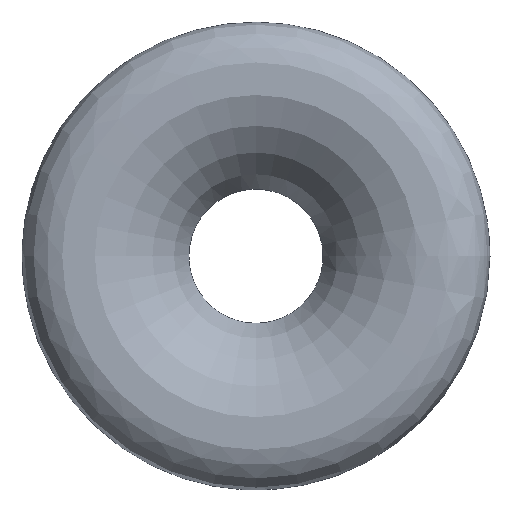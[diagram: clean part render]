
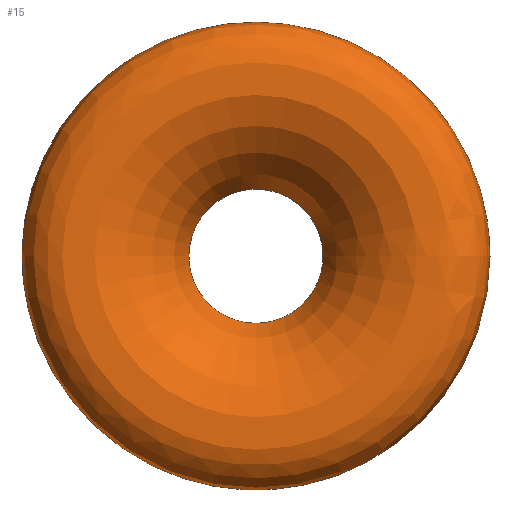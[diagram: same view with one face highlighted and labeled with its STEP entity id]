
A CAD part, top view. The second image highlights one B-rep face of the part: STEP entity #15.
In plain terms, the highlighted free-form (B-spline) face has degree [2, 3] with [9, 10] control points.
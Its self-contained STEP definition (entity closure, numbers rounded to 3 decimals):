
#15=ADVANCED_FACE('',(#16),#30,.T.);
#16=FACE_OUTER_BOUND('',#17,.T.);
#17=EDGE_LOOP('',(#18,#19,#20,#21));
#18=ORIENTED_EDGE('',*,*,#22,.T.);
#19=ORIENTED_EDGE('',*,*,#23,.T.);
#20=ORIENTED_EDGE('',*,*,#24,.T.);
#21=ORIENTED_EDGE('',*,*,#23,.F.);
#22=EDGE_CURVE('',#28,#28,#26,.T.);
#23=EDGE_CURVE('',#28,#29,#25,.T.);
#24=EDGE_CURVE('',#29,#29,#27,.T.);
#25=B_SPLINE_CURVE_WITH_KNOTS('',3,(#158,#159,#160,#161,#162,#163,#164,
#165,#166,#167),.UNSPECIFIED.,.F.,.F.,(4,1,1,1,1,1,1,4),(0.,17.621,
35.243,52.864,70.485,88.107,105.728,
123.35),.UNSPECIFIED.);
#26=(
BOUNDED_CURVE()
B_SPLINE_CURVE(2,(#149,#150,#151,#152,#153,#154,#155,#156,#157),
 .UNSPECIFIED.,.T.,.F.)
B_SPLINE_CURVE_WITH_KNOTS((3,2,2,2,3),(0.,197.52,395.04,
592.56,790.081),.UNSPECIFIED.)
CURVE()
GEOMETRIC_REPRESENTATION_ITEM()
RATIONAL_B_SPLINE_CURVE((1.,0.707,1.,0.707,1.,0.707,
1.,0.707,1.))
REPRESENTATION_ITEM('')
);
#27=(
BOUNDED_CURVE()
B_SPLINE_CURVE(2,(#168,#169,#170,#171,#172,#173,#174,#175,#176),
 .UNSPECIFIED.,.T.,.F.)
B_SPLINE_CURVE_WITH_KNOTS((3,2,2,2,3),(-790.081,-592.56,
-395.04,-197.52,0.),.UNSPECIFIED.)
CURVE()
GEOMETRIC_REPRESENTATION_ITEM()
RATIONAL_B_SPLINE_CURVE((1.,0.707,1.,0.707,1.,0.707,
1.,0.707,1.))
REPRESENTATION_ITEM('')
);
#28=VERTEX_POINT('',#147);
#29=VERTEX_POINT('',#148);
#30=(
BOUNDED_SURFACE()
B_SPLINE_SURFACE(2,3,((#57,#58,#59,#60,#61,#62,#63,#64,#65,#66),(#67,#68,
#69,#70,#71,#72,#73,#74,#75,#76),(#77,#78,#79,#80,#81,#82,#83,#84,#85,#86),
(#87,#88,#89,#90,#91,#92,#93,#94,#95,#96),(#97,#98,#99,#100,#101,#102,#103,
#104,#105,#106),(#107,#108,#109,#110,#111,#112,#113,#114,#115,#116),(#117,
#118,#119,#120,#121,#122,#123,#124,#125,#126),(#127,#128,#129,#130,#131,
#132,#133,#134,#135,#136),(#137,#138,#139,#140,#141,#142,#143,#144,#145,
#146)),.UNSPECIFIED.,.T.,.F.,.F.)
B_SPLINE_SURFACE_WITH_KNOTS((3,2,2,2,3),(4,1,1,1,1,1,1,4),(0.,197.52,
395.04,592.56,790.081),(0.,17.621,
35.243,52.864,70.485,88.107,105.728,
123.35),.UNSPECIFIED.)
GEOMETRIC_REPRESENTATION_ITEM()
RATIONAL_B_SPLINE_SURFACE(((1.,1.,1.,1.,1.,1.,1.,1.,1.,1.),(0.707,
0.707,0.707,0.707,0.707,
0.707,0.707,0.707,0.707,
0.707),(1.,1.,1.,1.,1.,1.,1.,1.,1.,1.),(0.707,0.707,
0.707,0.707,0.707,0.707,
0.707,0.707,0.707,0.707),
(1.,1.,1.,1.,1.,1.,1.,1.,1.,1.),(0.707,0.707,0.707,
0.707,0.707,0.707,0.707,
0.707,0.707,0.707),(1.,1.,1.,1.,1.,
1.,1.,1.,1.,1.),(0.707,0.707,0.707,
0.707,0.707,0.707,0.707,
0.707,0.707,0.707),(1.,1.,1.,1.,1.,
1.,1.,1.,1.,1.)))
REPRESENTATION_ITEM('')
SURFACE()
);
#57=CARTESIAN_POINT('',(36.,0.,0.));
#58=CARTESIAN_POINT('',(37.754,0.,5.626));
#59=CARTESIAN_POINT('',(43.418,0.,16.036));
#60=CARTESIAN_POINT('',(55.145,0.,29.328));
#61=CARTESIAN_POINT('',(69.567,0.,39.668));
#62=CARTESIAN_POINT('',(86.304,0.,45.826));
#63=CARTESIAN_POINT('',(104.226,0.,46.056));
#64=CARTESIAN_POINT('',(120.838,0.,38.297));
#65=CARTESIAN_POINT('',(126.267,0.,26.793));
#66=CARTESIAN_POINT('',(125.664,0.,20.841));
#67=CARTESIAN_POINT('',(36.,36.,0.));
#68=CARTESIAN_POINT('',(37.754,37.754,5.626));
#69=CARTESIAN_POINT('',(43.418,43.418,16.036));
#70=CARTESIAN_POINT('',(55.145,55.145,29.328));
#71=CARTESIAN_POINT('',(69.567,69.567,39.668));
#72=CARTESIAN_POINT('',(86.304,86.304,45.826));
#73=CARTESIAN_POINT('',(104.226,104.226,46.056));
#74=CARTESIAN_POINT('',(120.838,120.838,38.297));
#75=CARTESIAN_POINT('',(126.267,126.267,26.793));
#76=CARTESIAN_POINT('',(125.664,125.664,20.841));
#77=CARTESIAN_POINT('',(0.,36.,0.));
#78=CARTESIAN_POINT('',(0.,37.754,5.626));
#79=CARTESIAN_POINT('',(0.,43.418,16.036));
#80=CARTESIAN_POINT('',(0.,55.145,29.328));
#81=CARTESIAN_POINT('',(0.,69.567,39.668));
#82=CARTESIAN_POINT('',(0.,86.304,45.826));
#83=CARTESIAN_POINT('',(0.,104.226,46.056));
#84=CARTESIAN_POINT('',(0.,120.838,38.297));
#85=CARTESIAN_POINT('',(0.,126.267,26.793));
#86=CARTESIAN_POINT('',(0.,125.664,20.841));
#87=CARTESIAN_POINT('',(-36.,36.,0.));
#88=CARTESIAN_POINT('',(-37.754,37.754,5.626));
#89=CARTESIAN_POINT('',(-43.418,43.418,16.036));
#90=CARTESIAN_POINT('',(-55.145,55.145,29.328));
#91=CARTESIAN_POINT('',(-69.567,69.567,39.668));
#92=CARTESIAN_POINT('',(-86.304,86.304,45.826));
#93=CARTESIAN_POINT('',(-104.226,104.226,46.056));
#94=CARTESIAN_POINT('',(-120.838,120.838,38.297));
#95=CARTESIAN_POINT('',(-126.267,126.267,26.793));
#96=CARTESIAN_POINT('',(-125.664,125.664,20.841));
#97=CARTESIAN_POINT('',(-36.,0.,0.));
#98=CARTESIAN_POINT('',(-37.754,0.,5.626));
#99=CARTESIAN_POINT('',(-43.418,0.,16.036));
#100=CARTESIAN_POINT('',(-55.145,0.,29.328));
#101=CARTESIAN_POINT('',(-69.567,0.,39.668));
#102=CARTESIAN_POINT('',(-86.304,0.,45.826));
#103=CARTESIAN_POINT('',(-104.226,0.,46.056));
#104=CARTESIAN_POINT('',(-120.838,0.,38.297));
#105=CARTESIAN_POINT('',(-126.267,0.,26.793));
#106=CARTESIAN_POINT('',(-125.664,0.,20.841));
#107=CARTESIAN_POINT('',(-36.,-36.,0.));
#108=CARTESIAN_POINT('',(-37.754,-37.754,5.626));
#109=CARTESIAN_POINT('',(-43.418,-43.418,16.036));
#110=CARTESIAN_POINT('',(-55.145,-55.145,29.328));
#111=CARTESIAN_POINT('',(-69.567,-69.567,39.668));
#112=CARTESIAN_POINT('',(-86.304,-86.304,45.826));
#113=CARTESIAN_POINT('',(-104.226,-104.226,46.056));
#114=CARTESIAN_POINT('',(-120.838,-120.838,38.297));
#115=CARTESIAN_POINT('',(-126.267,-126.267,26.793));
#116=CARTESIAN_POINT('',(-125.664,-125.664,20.841));
#117=CARTESIAN_POINT('',(0.,-36.,0.));
#118=CARTESIAN_POINT('',(0.,-37.754,5.626));
#119=CARTESIAN_POINT('',(0.,-43.418,16.036));
#120=CARTESIAN_POINT('',(0.,-55.145,29.328));
#121=CARTESIAN_POINT('',(0.,-69.567,39.668));
#122=CARTESIAN_POINT('',(0.,-86.304,45.826));
#123=CARTESIAN_POINT('',(0.,-104.226,46.056));
#124=CARTESIAN_POINT('',(0.,-120.838,38.297));
#125=CARTESIAN_POINT('',(0.,-126.267,26.793));
#126=CARTESIAN_POINT('',(0.,-125.664,20.841));
#127=CARTESIAN_POINT('',(36.,-36.,0.));
#128=CARTESIAN_POINT('',(37.754,-37.754,5.626));
#129=CARTESIAN_POINT('',(43.418,-43.418,16.036));
#130=CARTESIAN_POINT('',(55.145,-55.145,29.328));
#131=CARTESIAN_POINT('',(69.567,-69.567,39.668));
#132=CARTESIAN_POINT('',(86.304,-86.304,45.826));
#133=CARTESIAN_POINT('',(104.226,-104.226,46.056));
#134=CARTESIAN_POINT('',(120.838,-120.838,38.297));
#135=CARTESIAN_POINT('',(126.267,-126.267,26.793));
#136=CARTESIAN_POINT('',(125.664,-125.664,20.841));
#137=CARTESIAN_POINT('',(36.,0.,0.));
#138=CARTESIAN_POINT('',(37.754,0.,5.626));
#139=CARTESIAN_POINT('',(43.418,0.,16.036));
#140=CARTESIAN_POINT('',(55.145,0.,29.328));
#141=CARTESIAN_POINT('',(69.567,0.,39.668));
#142=CARTESIAN_POINT('',(86.304,0.,45.826));
#143=CARTESIAN_POINT('',(104.226,0.,46.056));
#144=CARTESIAN_POINT('',(120.838,0.,38.297));
#145=CARTESIAN_POINT('',(126.267,0.,26.793));
#146=CARTESIAN_POINT('',(125.664,0.,20.841));
#147=CARTESIAN_POINT('',(36.,0.,0.));
#148=CARTESIAN_POINT('',(125.664,0.,20.841));
#149=CARTESIAN_POINT('',(36.,0.,0.));
#150=CARTESIAN_POINT('',(36.,36.,0.));
#151=CARTESIAN_POINT('',(0.,36.,0.));
#152=CARTESIAN_POINT('',(-36.,36.,0.));
#153=CARTESIAN_POINT('',(-36.,0.,0.));
#154=CARTESIAN_POINT('',(-36.,-36.,0.));
#155=CARTESIAN_POINT('',(0.,-36.,0.));
#156=CARTESIAN_POINT('',(36.,-36.,0.));
#157=CARTESIAN_POINT('',(36.,0.,0.));
#158=CARTESIAN_POINT('',(36.,0.,0.));
#159=CARTESIAN_POINT('',(37.754,0.,5.626));
#160=CARTESIAN_POINT('',(43.418,0.,16.036));
#161=CARTESIAN_POINT('',(55.145,0.,29.328));
#162=CARTESIAN_POINT('',(69.567,0.,39.668));
#163=CARTESIAN_POINT('',(86.304,0.,45.826));
#164=CARTESIAN_POINT('',(104.226,0.,46.056));
#165=CARTESIAN_POINT('',(120.838,0.,38.297));
#166=CARTESIAN_POINT('',(126.267,0.,26.793));
#167=CARTESIAN_POINT('',(125.664,0.,20.841));
#168=CARTESIAN_POINT('',(125.664,0.,20.841));
#169=CARTESIAN_POINT('',(125.664,-125.664,20.841));
#170=CARTESIAN_POINT('',(0.,-125.664,20.841));
#171=CARTESIAN_POINT('',(-125.664,-125.664,20.841));
#172=CARTESIAN_POINT('',(-125.664,0.,20.841));
#173=CARTESIAN_POINT('',(-125.664,125.664,20.841));
#174=CARTESIAN_POINT('',(0.,125.664,20.841));
#175=CARTESIAN_POINT('',(125.664,125.664,20.841));
#176=CARTESIAN_POINT('',(125.664,0.,20.841));
